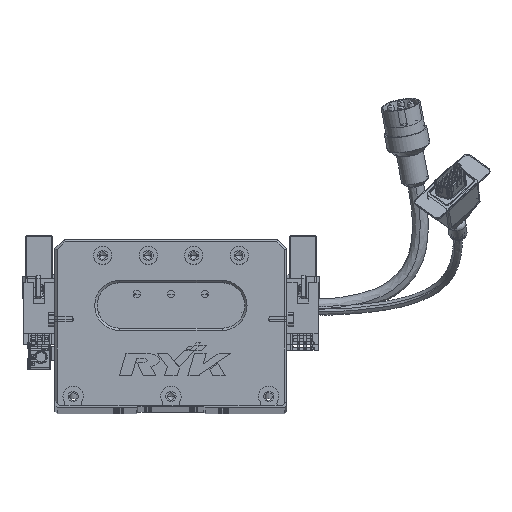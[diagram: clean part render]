
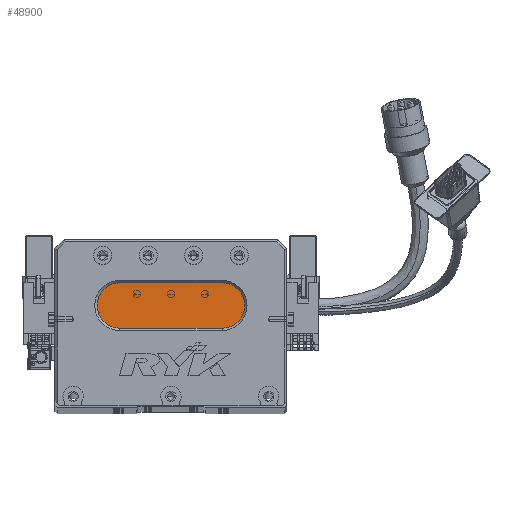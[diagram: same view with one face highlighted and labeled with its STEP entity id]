
A CAD part, top view. The second image highlights one B-rep face of the part: STEP entity #48900.
In plain terms, the highlighted planar face has unit normal (0, 0, 1) as drawn and (0, 0, -1) by its records, which use the part's own axes.
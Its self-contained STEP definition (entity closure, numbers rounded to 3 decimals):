
#222 = CARTESIAN_POINT ( 'NONE',  ( 73.5, 34., 13. ) ) ;
#1967 = EDGE_CURVE ( 'NONE', #47134, #53241, #31538, .T. ) ;
#2830 = DIRECTION ( 'NONE',  ( 0., 0., -1. ) ) ;
#4553 = FACE_OUTER_BOUND ( 'NONE', #37612, .T. ) ;
#6641 = EDGE_CURVE ( 'NONE', #26236, #41510, #58579, .T. ) ;
#8294 = CARTESIAN_POINT ( 'NONE',  ( 73.5, 34., 13. ) ) ;
#11088 = LINE ( 'NONE', #8294, #50525 ) ;
#11414 = CARTESIAN_POINT ( 'NONE',  ( 28.5, 44., 13. ) ) ;
#12507 = DIRECTION ( 'NONE',  ( -1., 0., 0. ) ) ;
#14424 = AXIS2_PLACEMENT_3D ( 'NONE', #19064, #47626, #48129 ) ;
#16529 = AXIS2_PLACEMENT_3D ( 'NONE', #46347, #18017, #12507 ) ;
#16660 = ORIENTED_EDGE ( 'NONE', *, *, #49135, .T. ) ;
#17478 = CARTESIAN_POINT ( 'NONE',  ( 28.5, 54., 13. ) ) ;
#18017 = DIRECTION ( 'NONE',  ( 0., 0., -1. ) ) ;
#19064 = CARTESIAN_POINT ( 'NONE',  ( 28.5, 44., 13. ) ) ;
#21488 = LINE ( 'NONE', #46971, #65416 ) ;
#23788 = DIRECTION ( 'NONE',  ( -1., 0., 0. ) ) ;
#25484 = ORIENTED_EDGE ( 'NONE', *, *, #6641, .T. ) ;
#26236 = VERTEX_POINT ( 'NONE', #61176 ) ;
#26333 = ORIENTED_EDGE ( 'NONE', *, *, #1967, .T. ) ;
#27420 = PLANE ( 'NONE',  #36857 ) ;
#28953 = DIRECTION ( 'NONE',  ( -1., 0., 0. ) ) ;
#29731 = CARTESIAN_POINT ( 'NONE',  ( 18.5, 44., 13. ) ) ;
#31232 = EDGE_CURVE ( 'NONE', #41510, #59511, #11088, .T. ) ;
#31538 = CIRCLE ( 'NONE', #45688, 10. ) ;
#33257 = ORIENTED_EDGE ( 'NONE', *, *, #44054, .T. ) ;
#33693 = CARTESIAN_POINT ( 'NONE',  ( 73.5, 44., 13. ) ) ;
#36857 = AXIS2_PLACEMENT_3D ( 'NONE', #33693, #2830, #23788 ) ;
#37419 = CARTESIAN_POINT ( 'NONE',  ( 28.5, 34., 13. ) ) ;
#37612 = EDGE_LOOP ( 'NONE', ( #25484, #43134, #33257, #26333, #16660 ) ) ;
#41510 = VERTEX_POINT ( 'NONE', #222 ) ;
#42122 = DIRECTION ( 'NONE',  ( -1., 0., 0. ) ) ;
#43134 = ORIENTED_EDGE ( 'NONE', *, *, #31232, .T. ) ;
#44054 = EDGE_CURVE ( 'NONE', #59511, #47134, #49302, .T. ) ;
#45688 = AXIS2_PLACEMENT_3D ( 'NONE', #11414, #63241, #28953 ) ;
#46347 = CARTESIAN_POINT ( 'NONE',  ( 73.5, 44., 13. ) ) ;
#46971 = CARTESIAN_POINT ( 'NONE',  ( 73.5, 54., 13. ) ) ;
#47134 = VERTEX_POINT ( 'NONE', #29731 ) ;
#47626 = DIRECTION ( 'NONE',  ( 0., 0., -1. ) ) ;
#48129 = DIRECTION ( 'NONE',  ( -1., 0., 0. ) ) ;
#48900 = ADVANCED_FACE ( 'NONE', ( #4553 ), #27420, .T. ) ;
#49135 = EDGE_CURVE ( 'NONE', #53241, #26236, #21488, .T. ) ;
#49302 = CIRCLE ( 'NONE', #14424, 10. ) ;
#50525 = VECTOR ( 'NONE', #42122, 1000. ) ;
#53241 = VERTEX_POINT ( 'NONE', #17478 ) ;
#58579 = CIRCLE ( 'NONE', #16529, 10. ) ;
#59511 = VERTEX_POINT ( 'NONE', #37419 ) ;
#61176 = CARTESIAN_POINT ( 'NONE',  ( 73.5, 54., 13. ) ) ;
#63241 = DIRECTION ( 'NONE',  ( 0., 0., -1. ) ) ;
#64742 = DIRECTION ( 'NONE',  ( 1., 0., 0. ) ) ;
#65416 = VECTOR ( 'NONE', #64742, 1000. ) ;
